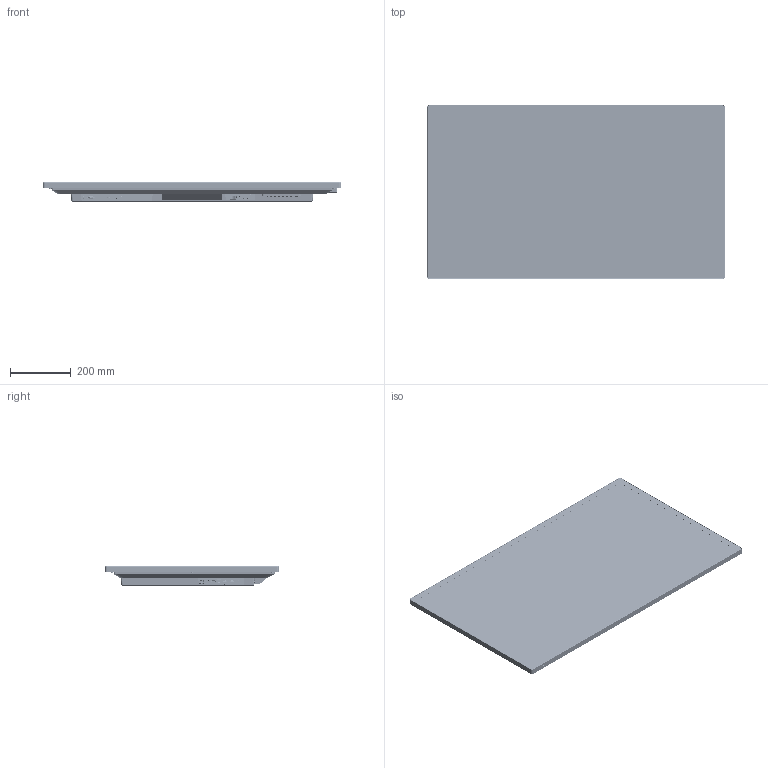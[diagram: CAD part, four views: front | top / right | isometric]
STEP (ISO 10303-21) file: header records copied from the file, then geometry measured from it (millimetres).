
FILE_DESCRIPTION (( 'STEP AP214' ), '1' );
FILE_NAME ('SLP43-T Panel 3D 19-SEP-24.STEP', '2024-09-24T22:30:50', ( '' ), ( '' ), 'SwSTEP 2.0', 'SolidWorks 2024', '' );
FILE_SCHEMA (( 'AUTOMOTIVE_DESIGN' ));
Length unit declared in the file: millimetre
Products named in the file (1): SLP43-T Panel 3D 19-SEP-24
Bounding box: 985.97 x 574.4 x 62.85 mm (x, y, z)
Volume: 2396375.8 mm3; surface area: 2774781.3 mm2
Topology: 102 solids, 128 shells, 29707 faces, 84600 edges, 54316 vertices
Faces by surface type: plane 20355, cylinder 6397, bspline 1835, cone 609, torus 445, sphere 66
Entity records: 1164191 total; most frequent: CARTESIAN_POINT 403457, ORIENTED_EDGE 169126, DIRECTION 141030, EDGE_CURVE 84563, VECTOR 64492, LINE 64492, VERTEX_POINT 54315, AXIS2_PLACEMENT_3D 38269
